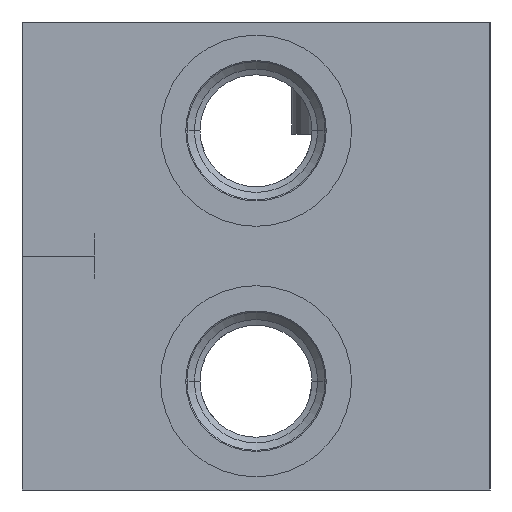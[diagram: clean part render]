
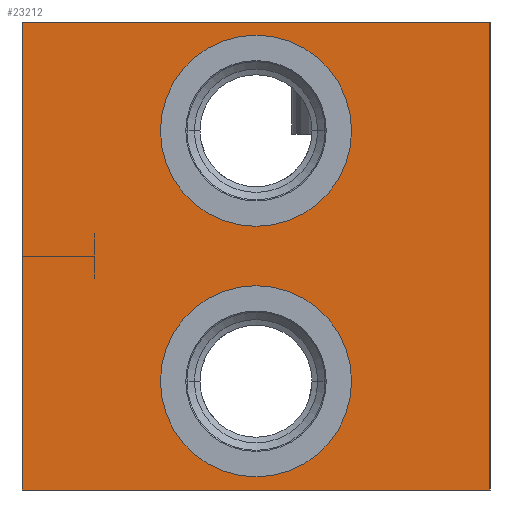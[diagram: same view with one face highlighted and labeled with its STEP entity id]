
A CAD part, left-side view. The second image highlights one B-rep face of the part: STEP entity #23212.
In plain terms, the highlighted planar face has unit normal (-1, 0, 0).
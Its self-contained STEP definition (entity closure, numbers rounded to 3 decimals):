
#26=DIRECTION('',(0.,-1.,0.));
#27=VECTOR('',#26,71.);
#28=CARTESIAN_POINT('',(0.,71.,0.));
#29=LINE('',#28,#27);
#431=DIRECTION('',(0.,0.,-1.));
#432=VECTOR('',#431,71.);
#433=CARTESIAN_POINT('',(0.,0.,0.));
#434=LINE('',#433,#432);
#3168=DIRECTION('',(0.,0.,-1.));
#3169=VECTOR('',#3168,71.);
#3170=CARTESIAN_POINT('',(0.,71.,0.));
#3171=LINE('',#3170,#3169);
#3175=CARTESIAN_POINT('',(0.,35.5,-54.5));
#3176=DIRECTION('',(1.,0.,0.));
#3177=DIRECTION('',(0.,-1.,0.));
#3178=AXIS2_PLACEMENT_3D('',#3175,#3176,#3177);
#3183=CARTESIAN_POINT('',(0.,35.5,-54.5));
#3184=DIRECTION('',(1.,0.,0.));
#3185=DIRECTION('',(0.,1.,0.));
#3186=AXIS2_PLACEMENT_3D('',#3183,#3184,#3185);
#3191=CARTESIAN_POINT('',(0.,35.5,-16.5));
#3192=DIRECTION('',(1.,0.,0.));
#3193=DIRECTION('',(0.,-1.,0.));
#3194=AXIS2_PLACEMENT_3D('',#3191,#3192,#3193);
#3199=CARTESIAN_POINT('',(0.,35.5,-16.5));
#3200=DIRECTION('',(1.,0.,0.));
#3201=DIRECTION('',(0.,1.,0.));
#3202=AXIS2_PLACEMENT_3D('',#3199,#3200,#3201);
#3228=DIRECTION('',(0.,-1.,0.));
#3229=VECTOR('',#3228,71.);
#3230=CARTESIAN_POINT('',(0.,71.,-71.));
#3231=LINE('',#3230,#3229);
#20654=CARTESIAN_POINT('',(0.,0.,0.));
#20656=VERTEX_POINT('',#20654);
#20660=CARTESIAN_POINT('',(0.,71.,0.));
#20661=VERTEX_POINT('',#20660);
#20662=CARTESIAN_POINT('',(0.,0.,-71.));
#20664=VERTEX_POINT('',#20662);
#20668=CARTESIAN_POINT('',(0.,71.,-71.));
#20669=VERTEX_POINT('',#20668);
#20726=CARTESIAN_POINT('',(0.,21.,-54.5));
#20727=CARTESIAN_POINT('',(0.,50.,-54.5));
#20728=VERTEX_POINT('',#20726);
#20729=VERTEX_POINT('',#20727);
#20746=CARTESIAN_POINT('',(0.,21.,-16.5));
#20747=CARTESIAN_POINT('',(0.,50.,-16.5));
#20748=VERTEX_POINT('',#20746);
#20749=VERTEX_POINT('',#20747);
#23188=CARTESIAN_POINT('',(0.,71.,0.));
#23189=DIRECTION('',(-1.,0.,0.));
#23190=DIRECTION('',(0.,-1.,0.));
#23191=AXIS2_PLACEMENT_3D('',#23188,#23189,#23190);
#23192=PLANE('',#23191);
#23193=ORIENTED_EDGE('',*,*,#22398,.T.);
#23194=ORIENTED_EDGE('',*,*,#22573,.T.);
#23196=ORIENTED_EDGE('',*,*,#23195,.F.);
#23197=ORIENTED_EDGE('',*,*,#22670,.F.);
#23198=EDGE_LOOP('',(#23193,#23194,#23196,#23197));
#23199=FACE_OUTER_BOUND('',#23198,.F.);
#23201=ORIENTED_EDGE('',*,*,#23200,.F.);
#23203=ORIENTED_EDGE('',*,*,#23202,.F.);
#23204=EDGE_LOOP('',(#23201,#23203));
#23205=FACE_BOUND('',#23204,.F.);
#23207=ORIENTED_EDGE('',*,*,#23206,.F.);
#23209=ORIENTED_EDGE('',*,*,#23208,.F.);
#23210=EDGE_LOOP('',(#23207,#23209));
#23211=FACE_BOUND('',#23210,.F.);
#3179=CIRCLE('',#3178,14.5);
#3187=CIRCLE('',#3186,14.5);
#3195=CIRCLE('',#3194,14.5);
#3203=CIRCLE('',#3202,14.5);
#22398=EDGE_CURVE('',#20661,#20656,#29,.T.);
#22573=EDGE_CURVE('',#20656,#20664,#434,.T.);
#22670=EDGE_CURVE('',#20661,#20669,#3171,.T.);
#23195=EDGE_CURVE('',#20669,#20664,#3231,.T.);
#23200=EDGE_CURVE('',#20728,#20729,#3179,.T.);
#23202=EDGE_CURVE('',#20729,#20728,#3187,.T.);
#23206=EDGE_CURVE('',#20748,#20749,#3195,.T.);
#23208=EDGE_CURVE('',#20749,#20748,#3203,.T.);
#23212=ADVANCED_FACE('',(#23199,#23205,#23211),#23192,.T.);
